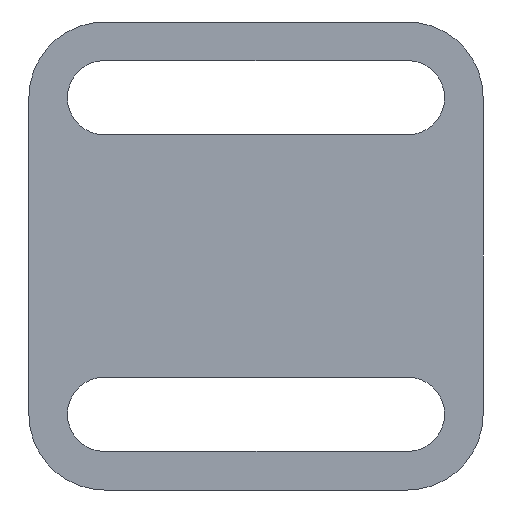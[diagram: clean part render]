
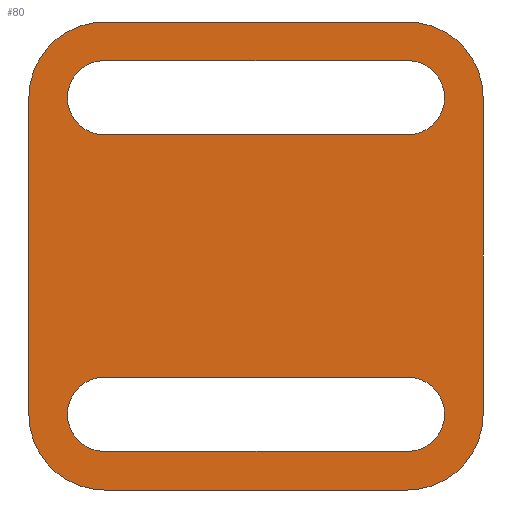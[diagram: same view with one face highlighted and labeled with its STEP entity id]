
A CAD part, front view. The second image highlights one B-rep face of the part: STEP entity #80.
In plain terms, the highlighted planar face has unit normal (0, -1, 0).
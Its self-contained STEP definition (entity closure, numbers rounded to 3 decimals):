
#80 = ADVANCED_FACE( '', ( #117, #118, #119 ), #120, .F. );
#117 = FACE_BOUND( '', #180, .T. );
#118 = FACE_OUTER_BOUND( '', #181, .T. );
#119 = FACE_BOUND( '', #182, .T. );
#120 = PLANE( '', #183 );
#180 = EDGE_LOOP( '', ( #274, #275, #276, #277 ) );
#181 = EDGE_LOOP( '', ( #278, #279, #280, #281, #282, #283, #284, #285 ) );
#182 = EDGE_LOOP( '', ( #286, #287, #288, #289 ) );
#183 = AXIS2_PLACEMENT_3D( '', #290, #291, #292 );
#274 = ORIENTED_EDGE( '', *, *, #481, .T. );
#275 = ORIENTED_EDGE( '', *, *, #482, .T. );
#276 = ORIENTED_EDGE( '', *, *, #483, .T. );
#277 = ORIENTED_EDGE( '', *, *, #484, .T. );
#278 = ORIENTED_EDGE( '', *, *, #485, .F. );
#279 = ORIENTED_EDGE( '', *, *, #486, .F. );
#280 = ORIENTED_EDGE( '', *, *, #487, .F. );
#281 = ORIENTED_EDGE( '', *, *, #488, .F. );
#282 = ORIENTED_EDGE( '', *, *, #489, .F. );
#283 = ORIENTED_EDGE( '', *, *, #490, .F. );
#284 = ORIENTED_EDGE( '', *, *, #467, .F. );
#285 = ORIENTED_EDGE( '', *, *, #491, .F. );
#286 = ORIENTED_EDGE( '', *, *, #492, .T. );
#287 = ORIENTED_EDGE( '', *, *, #493, .T. );
#288 = ORIENTED_EDGE( '', *, *, #494, .T. );
#289 = ORIENTED_EDGE( '', *, *, #495, .T. );
#290 = CARTESIAN_POINT( '', ( 5.5, 0., -11.5 ) );
#291 = DIRECTION( '', ( 0., 1., 0. ) );
#292 = DIRECTION( '', ( 0., 0., 1. ) );
#467 = EDGE_CURVE( '', #550, #551, #552, .T. );
#481 = EDGE_CURVE( '', #577, #578, #579, .T. );
#482 = EDGE_CURVE( '', #578, #580, #581, .T. );
#483 = EDGE_CURVE( '', #580, #582, #583, .T. );
#484 = EDGE_CURVE( '', #582, #577, #584, .T. );
#485 = EDGE_CURVE( '', #585, #586, #587, .T. );
#486 = EDGE_CURVE( '', #588, #585, #589, .T. );
#487 = EDGE_CURVE( '', #590, #588, #591, .T. );
#488 = EDGE_CURVE( '', #592, #590, #593, .T. );
#489 = EDGE_CURVE( '', #594, #592, #595, .T. );
#490 = EDGE_CURVE( '', #551, #594, #596, .T. );
#491 = EDGE_CURVE( '', #586, #550, #597, .T. );
#492 = EDGE_CURVE( '', #598, #599, #600, .T. );
#493 = EDGE_CURVE( '', #599, #601, #602, .T. );
#494 = EDGE_CURVE( '', #601, #603, #604, .T. );
#495 = EDGE_CURVE( '', #603, #598, #605, .T. );
#550 = VERTEX_POINT( '', #673 );
#551 = VERTEX_POINT( '', #674 );
#552 = CIRCLE( '', #675, 5.5 );
#577 = VERTEX_POINT( '', #708 );
#578 = VERTEX_POINT( '', #709 );
#579 = LINE( '', #710, #711 );
#580 = VERTEX_POINT( '', #712 );
#581 = CIRCLE( '', #713, 2.7 );
#582 = VERTEX_POINT( '', #714 );
#583 = LINE( '', #715, #716 );
#584 = CIRCLE( '', #717, 2.7 );
#585 = VERTEX_POINT( '', #718 );
#586 = VERTEX_POINT( '', #719 );
#587 = CIRCLE( '', #720, 5.5 );
#588 = VERTEX_POINT( '', #721 );
#589 = LINE( '', #722, #723 );
#590 = VERTEX_POINT( '', #724 );
#591 = CIRCLE( '', #725, 5.5 );
#592 = VERTEX_POINT( '', #726 );
#593 = LINE( '', #727, #728 );
#594 = VERTEX_POINT( '', #729 );
#595 = CIRCLE( '', #730, 5.5 );
#596 = LINE( '', #731, #732 );
#597 = LINE( '', #733, #734 );
#598 = VERTEX_POINT( '', #735 );
#599 = VERTEX_POINT( '', #736 );
#600 = LINE( '', #737, #738 );
#601 = VERTEX_POINT( '', #739 );
#602 = CIRCLE( '', #740, 2.7 );
#603 = VERTEX_POINT( '', #741 );
#604 = LINE( '', #742, #743 );
#605 = CIRCLE( '', #744, 2.7 );
#673 = CARTESIAN_POINT( '', ( 5.5, 0., -17. ) );
#674 = CARTESIAN_POINT( '', ( 0., 0., -11.5 ) );
#675 = AXIS2_PLACEMENT_3D( '', #829, #830, #831 );
#708 = CARTESIAN_POINT( '', ( 27.5, 0., -14.2 ) );
#709 = CARTESIAN_POINT( '', ( 5.5, 0., -14.2 ) );
#710 = CARTESIAN_POINT( '', ( 27.5, 0., -14.2 ) );
#711 = VECTOR( '', #855, 1000. );
#712 = CARTESIAN_POINT( '', ( 5.5, 0., -8.8 ) );
#713 = AXIS2_PLACEMENT_3D( '', #856, #857, #858 );
#714 = CARTESIAN_POINT( '', ( 27.5, 0., -8.8 ) );
#715 = CARTESIAN_POINT( '', ( 5.5, 0., -8.8 ) );
#716 = VECTOR( '', #859, 1000. );
#717 = AXIS2_PLACEMENT_3D( '', #860, #861, #862 );
#718 = CARTESIAN_POINT( '', ( 33., 0., -11.5 ) );
#719 = CARTESIAN_POINT( '', ( 27.5, 0., -17. ) );
#720 = AXIS2_PLACEMENT_3D( '', #863, #864, #865 );
#721 = CARTESIAN_POINT( '', ( 33., 0., 11.5 ) );
#722 = CARTESIAN_POINT( '', ( 33., 0., 11.5 ) );
#723 = VECTOR( '', #866, 1000. );
#724 = CARTESIAN_POINT( '', ( 27.5, 0., 17. ) );
#725 = AXIS2_PLACEMENT_3D( '', #867, #868, #869 );
#726 = CARTESIAN_POINT( '', ( 5.5, 0., 17. ) );
#727 = CARTESIAN_POINT( '', ( 5.5, 0., 17. ) );
#728 = VECTOR( '', #870, 1000. );
#729 = CARTESIAN_POINT( '', ( 0., 0., 11.5 ) );
#730 = AXIS2_PLACEMENT_3D( '', #871, #872, #873 );
#731 = CARTESIAN_POINT( '', ( 0., 0., -11.5 ) );
#732 = VECTOR( '', #874, 1000. );
#733 = CARTESIAN_POINT( '', ( 27.5, 0., -17. ) );
#734 = VECTOR( '', #875, 1000. );
#735 = CARTESIAN_POINT( '', ( 27.5, 0., 8.8 ) );
#736 = CARTESIAN_POINT( '', ( 5.5, 0., 8.8 ) );
#737 = CARTESIAN_POINT( '', ( 27.5, 0., 8.8 ) );
#738 = VECTOR( '', #876, 1000. );
#739 = CARTESIAN_POINT( '', ( 5.5, 0., 14.2 ) );
#740 = AXIS2_PLACEMENT_3D( '', #877, #878, #879 );
#741 = CARTESIAN_POINT( '', ( 27.5, 0., 14.2 ) );
#742 = CARTESIAN_POINT( '', ( 5.5, 0., 14.2 ) );
#743 = VECTOR( '', #880, 1000. );
#744 = AXIS2_PLACEMENT_3D( '', #881, #882, #883 );
#829 = CARTESIAN_POINT( '', ( 5.5, 0., -11.5 ) );
#830 = DIRECTION( '', ( 0., 1., 0. ) );
#831 = DIRECTION( '', ( 1., 0., 0. ) );
#855 = DIRECTION( '', ( -1., 0., 0. ) );
#856 = CARTESIAN_POINT( '', ( 5.5, 0., -11.5 ) );
#857 = DIRECTION( '', ( 0., 1., 0. ) );
#858 = DIRECTION( '', ( 1., 0., 0. ) );
#859 = DIRECTION( '', ( 1., 0., 0. ) );
#860 = CARTESIAN_POINT( '', ( 27.5, 0., -11.5 ) );
#861 = DIRECTION( '', ( 0., 1., 0. ) );
#862 = DIRECTION( '', ( 1., 0., 0. ) );
#863 = CARTESIAN_POINT( '', ( 27.5, 0., -11.5 ) );
#864 = DIRECTION( '', ( 0., 1., 0. ) );
#865 = DIRECTION( '', ( 1., 0., 0. ) );
#866 = DIRECTION( '', ( 0., 0., -1. ) );
#867 = CARTESIAN_POINT( '', ( 27.5, 0., 11.5 ) );
#868 = DIRECTION( '', ( 0., 1., 0. ) );
#869 = DIRECTION( '', ( 1., 0., 0. ) );
#870 = DIRECTION( '', ( 1., 0., 0. ) );
#871 = CARTESIAN_POINT( '', ( 5.5, 0., 11.5 ) );
#872 = DIRECTION( '', ( 0., 1., 0. ) );
#873 = DIRECTION( '', ( 1., 0., 0. ) );
#874 = DIRECTION( '', ( 0., 0., 1. ) );
#875 = DIRECTION( '', ( -1., 0., 0. ) );
#876 = DIRECTION( '', ( -1., 0., 0. ) );
#877 = CARTESIAN_POINT( '', ( 5.5, 0., 11.5 ) );
#878 = DIRECTION( '', ( 0., 1., 0. ) );
#879 = DIRECTION( '', ( 1., 0., 0. ) );
#880 = DIRECTION( '', ( 1., 0., 0. ) );
#881 = CARTESIAN_POINT( '', ( 27.5, 0., 11.5 ) );
#882 = DIRECTION( '', ( 0., 1., 0. ) );
#883 = DIRECTION( '', ( 1., 0., 0. ) );
